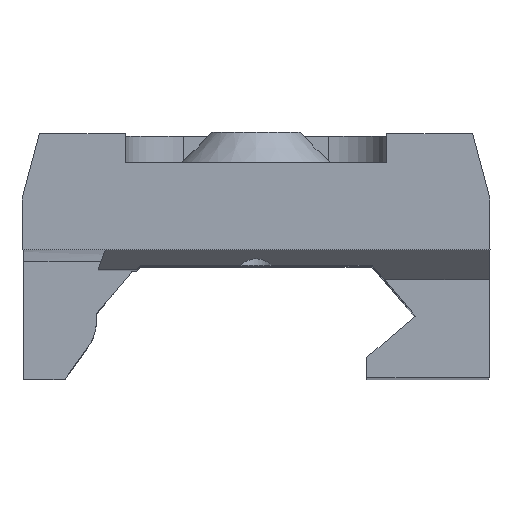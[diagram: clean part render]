
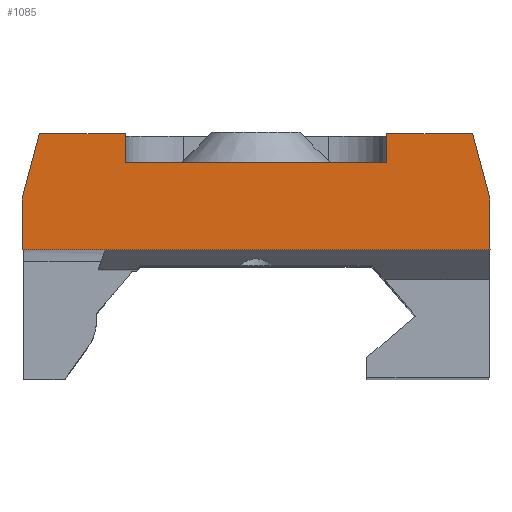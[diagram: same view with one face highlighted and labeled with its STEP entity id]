
A CAD part, front view. The second image highlights one B-rep face of the part: STEP entity #1085.
In plain terms, the highlighted planar face has unit normal (0, -1, 0.002).
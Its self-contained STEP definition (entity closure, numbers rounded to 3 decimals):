
#319=CARTESIAN_POINT('',(9.,107.769,43.05));
#320=VERTEX_POINT('',#319);
#327=CARTESIAN_POINT('',(9.,107.772,45.05));
#328=VERTEX_POINT('',#327);
#329=CARTESIAN_POINT('',(9.,107.772,45.05));
#330=DIRECTION('',(0.,-0.002,-1.));
#331=VECTOR('',#330,2.);
#332=LINE('',#329,#331);
#333=EDGE_CURVE('',#328,#320,#332,.T.);
#702=CARTESIAN_POINT('',(-9.,107.769,43.05));
#703=VERTEX_POINT('',#702);
#710=CARTESIAN_POINT('',(9.,107.769,43.05));
#711=DIRECTION('',(-1.,-0.,0.));
#712=VECTOR('',#711,18.);
#713=LINE('',#710,#712);
#714=EDGE_CURVE('',#320,#703,#713,.T.);
#849=CARTESIAN_POINT('',(-9.,107.772,45.05));
#850=VERTEX_POINT('',#849);
#857=CARTESIAN_POINT('',(-9.,107.769,43.05));
#858=DIRECTION('',(-0.,0.002,1.));
#859=VECTOR('',#858,2.);
#860=LINE('',#857,#859);
#861=EDGE_CURVE('',#703,#850,#860,.T.);
#952=CARTESIAN_POINT('',(14.919,107.772,45.05));
#953=VERTEX_POINT('',#952);
#986=CARTESIAN_POINT('',(-14.919,107.772,45.05));
#987=VERTEX_POINT('',#986);
#994=CARTESIAN_POINT('',(-9.,107.772,45.05));
#995=DIRECTION('',(-1.,-0.,0.));
#996=VECTOR('',#995,5.919);
#997=LINE('',#994,#996);
#998=EDGE_CURVE('',#850,#987,#997,.T.);
#1026=CARTESIAN_POINT('',(14.919,107.772,45.05));
#1027=DIRECTION('',(-1.,-0.,0.));
#1028=VECTOR('',#1027,5.919);
#1029=LINE('',#1026,#1028);
#1030=EDGE_CURVE('',#953,#328,#1029,.T.);
#1035=CARTESIAN_POINT('',(0.,107.759,37.05));
#1036=DIRECTION('',(0.,-1.,0.002));
#1037=DIRECTION('',(0.,-0.002,-1.));
#1038=AXIS2_PLACEMENT_3D('',#1035,#1036,#1037);
#1039=PLANE('',#1038);
#1040=ORIENTED_EDGE('',*,*,#714,.T.);
#1041=ORIENTED_EDGE('',*,*,#861,.T.);
#1042=ORIENTED_EDGE('',*,*,#998,.T.);
#1043=CARTESIAN_POINT('',(-16.125,107.765,40.55));
#1044=VERTEX_POINT('',#1043);
#1045=CARTESIAN_POINT('',(-16.125,107.765,40.55));
#1046=DIRECTION('',(0.259,0.002,0.966));
#1047=VECTOR('',#1046,4.659);
#1048=LINE('',#1045,#1047);
#1049=EDGE_CURVE('',#1044,#987,#1048,.T.);
#1050=ORIENTED_EDGE('',*,*,#1049,.F.);
#1051=CARTESIAN_POINT('',(-16.125,107.759,37.05));
#1052=VERTEX_POINT('',#1051);
#1053=CARTESIAN_POINT('',(-16.125,107.759,37.05));
#1054=DIRECTION('',(0.,0.002,1.));
#1055=VECTOR('',#1054,3.5);
#1056=LINE('',#1053,#1055);
#1057=EDGE_CURVE('',#1052,#1044,#1056,.T.);
#1058=ORIENTED_EDGE('',*,*,#1057,.F.);
#1059=CARTESIAN_POINT('',(16.125,107.759,37.05));
#1060=VERTEX_POINT('',#1059);
#1061=CARTESIAN_POINT('',(-16.125,107.759,37.05));
#1062=DIRECTION('',(1.,0.,-0.));
#1063=VECTOR('',#1062,32.25);
#1064=LINE('',#1061,#1063);
#1065=EDGE_CURVE('',#1052,#1060,#1064,.T.);
#1066=ORIENTED_EDGE('',*,*,#1065,.T.);
#1067=CARTESIAN_POINT('',(16.125,107.765,40.55));
#1068=VERTEX_POINT('',#1067);
#1069=CARTESIAN_POINT('',(16.125,107.759,37.05));
#1070=DIRECTION('',(-0.,0.002,1.));
#1071=VECTOR('',#1070,3.5);
#1072=LINE('',#1069,#1071);
#1073=EDGE_CURVE('',#1060,#1068,#1072,.T.);
#1074=ORIENTED_EDGE('',*,*,#1073,.T.);
#1075=CARTESIAN_POINT('',(16.125,107.765,40.55));
#1076=DIRECTION('',(-0.259,0.002,0.966));
#1077=VECTOR('',#1076,4.659);
#1078=LINE('',#1075,#1077);
#1079=EDGE_CURVE('',#1068,#953,#1078,.T.);
#1080=ORIENTED_EDGE('',*,*,#1079,.T.);
#1081=ORIENTED_EDGE('',*,*,#1030,.T.);
#1082=ORIENTED_EDGE('',*,*,#333,.T.);
#1083=EDGE_LOOP('',(#1040,#1041,#1042,#1050,#1058,#1066,#1074,#1080,#1081,#1082));
#1084=FACE_BOUND('',#1083,.T.);
#1085=ADVANCED_FACE('',(#1084),#1039,.T.);
